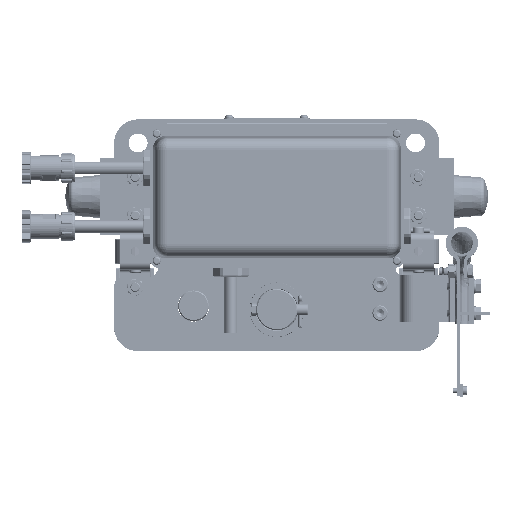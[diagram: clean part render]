
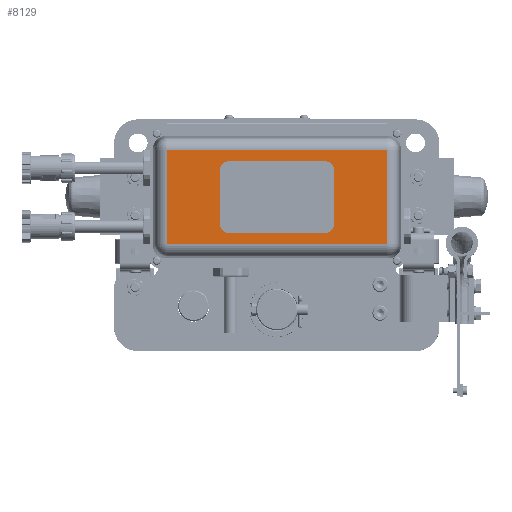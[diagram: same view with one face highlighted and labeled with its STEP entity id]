
A CAD part, top view. The second image highlights one B-rep face of the part: STEP entity #8129.
In plain terms, the highlighted planar face has unit normal (0, 0, 1) as drawn and (-1, 0, 0) by its records, which use the part's own axes.
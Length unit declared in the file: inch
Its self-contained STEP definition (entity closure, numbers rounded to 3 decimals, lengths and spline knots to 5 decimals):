
#8129 = ADVANCED_FACE ( 'NONE', ( #175935 ), #84916, .T. ) ;
#10279 = ORIENTED_EDGE ( 'NONE', *, *, #105455, .T. ) ;
#12416 = VERTEX_POINT ( 'NONE', #115696 ) ;
#14839 = EDGE_CURVE ( 'NONE', #12416, #18990, #124169, .T. ) ;
#18990 = VERTEX_POINT ( 'NONE', #185657 ) ;
#26079 = EDGE_CURVE ( 'NONE', #175145, #12416, #186608, .T. ) ;
#29655 = DIRECTION ( 'NONE',  ( 0., 0., 1. ) ) ;
#30949 = VECTOR ( 'NONE', #189362, 39.37008 ) ;
#37388 = CARTESIAN_POINT ( 'NONE',  ( -2.71654, 4.84533, 9.75453 ) ) ;
#43215 = CARTESIAN_POINT ( 'NONE',  ( -2.71654, -2.25031, 10.47244 ) ) ;
#50994 = EDGE_CURVE ( 'NONE', #18990, #188892, #188406, .T. ) ;
#54919 = EDGE_LOOP ( 'NONE', ( #140678, #77219, #10279, #167721 ) ) ;
#56839 = AXIS2_PLACEMENT_3D ( 'NONE', #43215, #116862, #29655 ) ;
#77219 = ORIENTED_EDGE ( 'NONE', *, *, #50994, .T. ) ;
#79617 = CARTESIAN_POINT ( 'NONE',  ( -2.71654, 0.98144, 10.47244 ) ) ;
#84916 = PLANE ( 'NONE',  #56839 ) ;
#87917 = VECTOR ( 'NONE', #97503, 39.37008 ) ;
#97503 = DIRECTION ( 'NONE',  ( 0., -1., 0. ) ) ;
#100268 = CARTESIAN_POINT ( 'NONE',  ( -2.71654, 5.33958, 9.75453 ) ) ;
#105361 = DIRECTION ( 'NONE',  ( 0., 0., -1. ) ) ;
#105455 = EDGE_CURVE ( 'NONE', #188892, #175145, #134380, .T. ) ;
#106874 = CARTESIAN_POINT ( 'NONE',  ( -2.71654, 4.84533, 0.73446 ) ) ;
#115696 = CARTESIAN_POINT ( 'NONE',  ( -2.71654, 0.98144, 0.73446 ) ) ;
#116862 = DIRECTION ( 'NONE',  ( -1., 0., 0. ) ) ;
#121836 = CARTESIAN_POINT ( 'NONE',  ( -2.71654, 4.84533, 10.47244 ) ) ;
#124169 = LINE ( 'NONE', #79617, #171719 ) ;
#129724 = VECTOR ( 'NONE', #105361, 39.37008 ) ;
#134380 = LINE ( 'NONE', #121836, #129724 ) ;
#140678 = ORIENTED_EDGE ( 'NONE', *, *, #14839, .T. ) ;
#167721 = ORIENTED_EDGE ( 'NONE', *, *, #26079, .T. ) ;
#171719 = VECTOR ( 'NONE', #183241, 39.37008 ) ;
#172036 = CARTESIAN_POINT ( 'NONE',  ( -2.71654, -2.25031, 0.73446 ) ) ;
#175145 = VERTEX_POINT ( 'NONE', #106874 ) ;
#175935 = FACE_OUTER_BOUND ( 'NONE', #54919, .T. ) ;
#183241 = DIRECTION ( 'NONE',  ( 0., 0., 1. ) ) ;
#185657 = CARTESIAN_POINT ( 'NONE',  ( -2.71654, 0.98144, 9.75453 ) ) ;
#186608 = LINE ( 'NONE', #172036, #87917 ) ;
#188406 = LINE ( 'NONE', #100268, #30949 ) ;
#188892 = VERTEX_POINT ( 'NONE', #37388 ) ;
#189362 = DIRECTION ( 'NONE',  ( 0., 1., 0. ) ) ;
